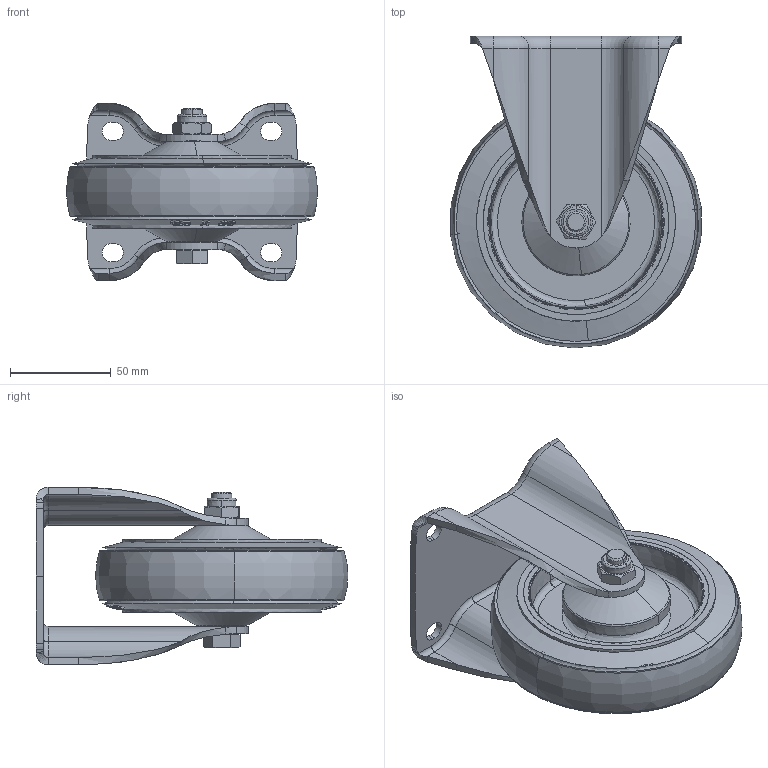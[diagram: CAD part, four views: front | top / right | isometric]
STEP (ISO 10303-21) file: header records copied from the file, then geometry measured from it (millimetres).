
FILE_DESCRIPTION (( 'STEP AP203' ), '1' );
FILE_NAME ('嘐隅.STEP', '2025-12-05T10:24:27', ( '' ), ( '' ), 'SwSTEP 2.0', 'SolidWorks 2021', '' );
FILE_SCHEMA (( 'CONFIG_CONTROL_DESIGN' ));
Length unit declared in the file: millimetre
Products named in the file (7): 51_________W______________A_O^11510500451023(2)_11510500451023; M10_2__A_O^51_________W______________A_O_11510500451023(2)_11510500451023; 5寸弹力全效轮中宽50_預設; 51____5___W__________A_O^51_________W______________A_O_11510500451023(2)_11510500451023; hexagon head bolts gb_GB_FASTENER_BOLT_SB A M10X70-N__A_O^51_________W______________A_O_11510500451023(2)_11510500451023; 11510500451023(2)^11510500451023; 嘐隅
Assembly tree (6 placements, depth 4):
  嘐隅
    11510500451023(2)^11510500451023
      51_________W______________A_O^11510500451023(2)_11510500451023
        51____5___W__________A_O^51_________W______________A_O_11510500451023(2)_11510500451023
        hexagon head bolts gb_GB_FASTENER_BOLT_SB A M10X70-N__A_O^51_________W______________A_O_11510500451023(2)_11510500451023
        M10_2__A_O^51_________W______________A_O_11510500451023(2)_11510500451023
    5寸弹力全效轮中宽50_預設
Bounding box: 124.34 x 154.49 x 88 mm (x, y, z)
Volume: 78777.3 mm3; surface area: 163165.4 mm2
Topology: 3 solids, 18 shells, 917 faces, 2541 edges, 1635 vertices
Faces by surface type: bspline 412, plane 395, cylinder 64, torus 24, cone 22
Entity records: 50885 total; most frequent: CARTESIAN_POINT 31272, ORIENTED_EDGE 4954, EDGE_CURVE 2479, DIRECTION 2346, VERTEX_POINT 1635, B_SPLINE_CURVE_WITH_KNOTS 1438, EDGE_LOOP 982, FACE_OUTER_BOUND 917
